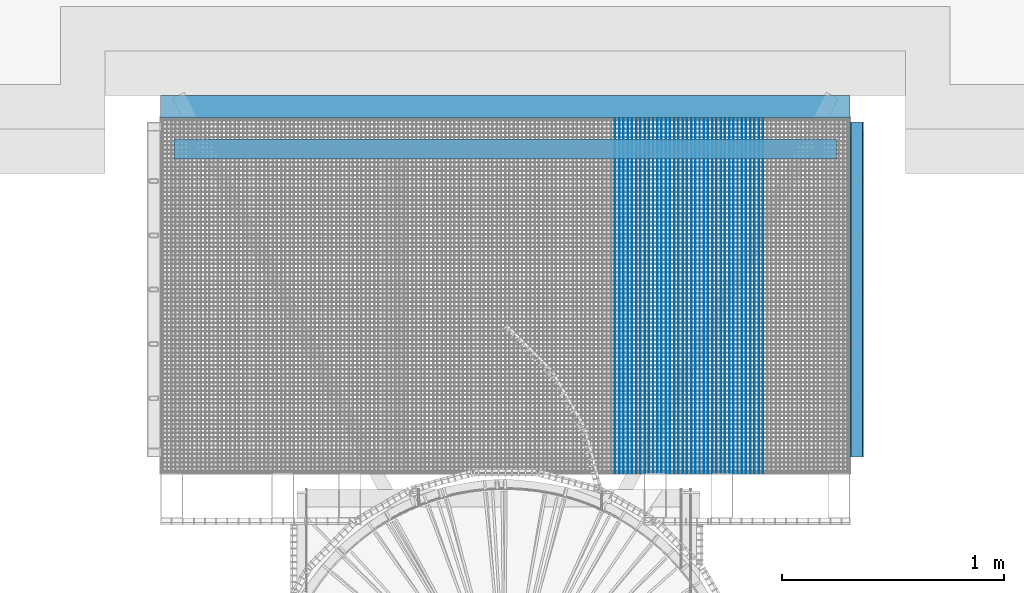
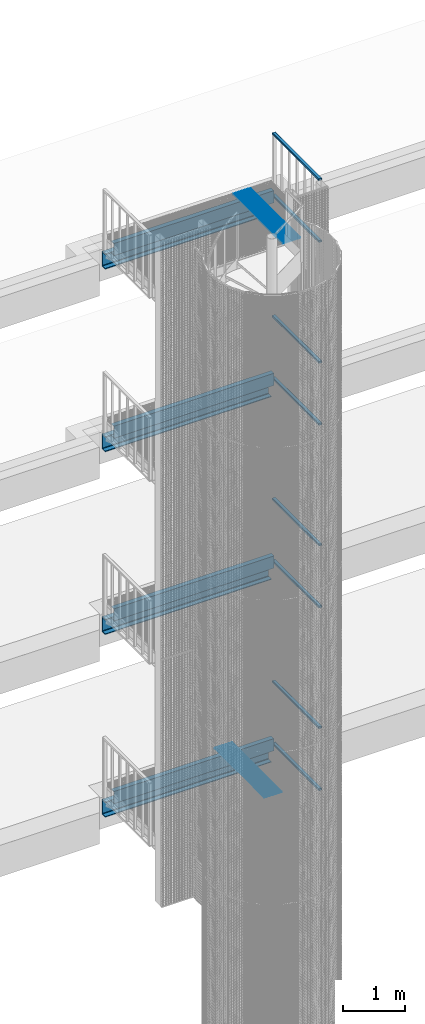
# One storey, part 99 of 1148: 52 beams, 18 elements without a shape of their own.
"""IFC2X3 building model written with IfcOpenShell, lengths in millimetres."""

from ifc_helpers import new_model, si_unit, frame, origin_with_axes, origin_2d_with_axis, place, context, subcontext, project, spatial, rectangle, hollow_rectangle, u_section, extrude, material, type_object, element, aggregate, save


model = new_model("IFC2X3")

# Units and contexts
model_context = context("Model", 3, precision=1e-05, world=origin_with_axes())
body_context = subcontext(model_context, "Body", "Model", "MODEL_VIEW")
ifc_project = project(units=[si_unit("LENGTHUNIT", "METRE", prefix="MILLI"), si_unit("AREAUNIT", "SQUARE_METRE"), si_unit("VOLUMEUNIT", "CUBIC_METRE"), si_unit("MASSUNIT", "GRAM", prefix="KILO"), si_unit("TIMEUNIT", "SECOND"), si_unit("PLANEANGLEUNIT", "RADIAN"), si_unit("SOLIDANGLEUNIT", "STERADIAN"), si_unit("THERMODYNAMICTEMPERATUREUNIT", "DEGREE_CELSIUS"), si_unit("LUMINOUSINTENSITYUNIT", "LUMEN")], contexts=[model_context])

# Site, building, storey
site_placement = place(None, origin_with_axes())
site = spatial("IfcSite", under=ifc_project, at=site_placement, Name="Undefined", CompositionType="ELEMENT")
building_placement = place(site_placement, origin_with_axes())
building = spatial("IfcBuilding", under=site, at=building_placement, Name="Undefined", CompositionType="ELEMENT")
storey_placement = place(building_placement, origin_with_axes())
storey = spatial("IfcBuildingStorey", under=building, at=storey_placement, Name="Undefined", CompositionType="ELEMENT", Elevation=0.0)

# Assembly, beams
assembly_1_placement = place(storey_placement, origin_with_axes())
assembly_1 = element("IfcElementAssembly", 1, at=assembly_1_placement, inside=storey, Name="BORDURE", AssemblyPlace="NOTDEFINED", PredefinedType="NOTDEFINED")
ifc_material_1 = material(Name="STEEL/S235JR")
beam_type_1 = type_object("IfcBeamType", Name="PL2*10", PredefinedType="NOTDEFINED")
beam_1_placement = place(assembly_1_placement, frame((22436.1154247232, 1102.00643381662, 17285.0), z_axis=(0.0, 0.0, 1.0), x_axis=(-4.50599999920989e-06, 0.999999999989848, 0.0)))
beam_1 = element("IfcBeam", 2, at=beam_1_placement, type_object=beam_type_1, material=ifc_material_1, Name="ENTRETOISE", context=body_context, shape_type="SweptSolid", body=[
    extrude(rectangle(XDim=2.0, YDim=10.0, at=origin_2d_with_axis()), frame((1596.0000000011, -1.35186458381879e-18, -7.27595761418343e-12), z_axis=(-1.0, 0.0, 0.0), x_axis=(0.0, -1.0, 0.0)), (0.0, 0.0, 1.0), 1596.0),
])
beam_2_placement = place(assembly_1_placement, frame((22455.1154247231, 1102.00652733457, 17285.0), z_axis=(0.0, 0.0, 1.0), x_axis=(-4.50599999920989e-06, 0.999999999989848, 0.0)))
beam_2 = element("IfcBeam", 3, at=beam_2_placement, type_object=beam_type_1, material=ifc_material_1, Name="ENTRETOISE", context=body_context, shape_type="SweptSolid", body=[
    extrude(rectangle(XDim=2.0, YDim=10.0, at=origin_2d_with_axis()), frame((1596.0000000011, -1.35186458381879e-18, -7.27595761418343e-12), z_axis=(-1.0, 0.0, 0.0), x_axis=(0.0, -1.0, 0.0)), (0.0, 0.0, 1.0), 1596.0),
])
beam_3_placement = place(assembly_1_placement, frame((22474.1154247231, 1102.00662085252, 17285.0), z_axis=(0.0, 0.0, 1.0), x_axis=(-4.50599999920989e-06, 0.999999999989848, 0.0)))
beam_3 = element("IfcBeam", 4, at=beam_3_placement, type_object=beam_type_1, material=ifc_material_1, Name="ENTRETOISE", context=body_context, shape_type="SweptSolid", body=[
    extrude(rectangle(XDim=2.0, YDim=10.0, at=origin_2d_with_axis()), frame((1596.0000000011, -1.35186458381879e-18, -7.27595761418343e-12), z_axis=(-1.0, 0.0, 0.0), x_axis=(0.0, -1.0, 0.0)), (0.0, 0.0, 1.0), 1596.0),
])
beam_4_placement = place(assembly_1_placement, frame((22493.115424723, 1102.00671437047, 17285.0), z_axis=(0.0, 0.0, 1.0), x_axis=(-4.50599999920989e-06, 0.999999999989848, 0.0)))
beam_4 = element("IfcBeam", 5, at=beam_4_placement, type_object=beam_type_1, material=ifc_material_1, Name="ENTRETOISE", context=body_context, shape_type="SweptSolid", body=[
    extrude(rectangle(XDim=2.0, YDim=10.0, at=origin_2d_with_axis()), frame((1596.0000000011, -1.35186458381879e-18, -7.27595761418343e-12), z_axis=(-1.0, 0.0, 0.0), x_axis=(0.0, -1.0, 0.0)), (0.0, 0.0, 1.0), 1596.0),
])
beam_5_placement = place(assembly_1_placement, frame((22512.1154247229, 1102.00680788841, 17285.0), z_axis=(0.0, 0.0, 1.0), x_axis=(-4.50599999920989e-06, 0.999999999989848, 0.0)))
beam_5 = element("IfcBeam", 6, at=beam_5_placement, type_object=beam_type_1, material=ifc_material_1, Name="ENTRETOISE", context=body_context, shape_type="SweptSolid", body=[
    extrude(rectangle(XDim=2.0, YDim=10.0, at=origin_2d_with_axis()), frame((1596.0000000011, -1.35186458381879e-18, -7.27595761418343e-12), z_axis=(-1.0, 0.0, 0.0), x_axis=(0.0, -1.0, 0.0)), (0.0, 0.0, 1.0), 1596.0),
])
beam_6_placement = place(assembly_1_placement, frame((22531.1154247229, 1102.00690140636, 17285.0), z_axis=(0.0, 0.0, 1.0), x_axis=(-4.50599999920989e-06, 0.999999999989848, 0.0)))
beam_6 = element("IfcBeam", 7, at=beam_6_placement, type_object=beam_type_1, material=ifc_material_1, Name="ENTRETOISE", context=body_context, shape_type="SweptSolid", body=[
    extrude(rectangle(XDim=2.0, YDim=10.0, at=origin_2d_with_axis()), frame((1596.0000000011, -1.35186458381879e-18, -7.27595761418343e-12), z_axis=(-1.0, 0.0, 0.0), x_axis=(0.0, -1.0, 0.0)), (0.0, 0.0, 1.0), 1596.0),
])
beam_7_placement = place(assembly_1_placement, frame((22550.1154247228, 1102.00699492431, 17285.0), z_axis=(0.0, 0.0, 1.0), x_axis=(-4.50599999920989e-06, 0.999999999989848, 0.0)))
beam_7 = element("IfcBeam", 8, at=beam_7_placement, type_object=beam_type_1, material=ifc_material_1, Name="ENTRETOISE", context=body_context, shape_type="SweptSolid", body=[
    extrude(rectangle(XDim=2.0, YDim=10.0, at=origin_2d_with_axis()), frame((1596.0000000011, -1.35186458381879e-18, -7.27595761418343e-12), z_axis=(-1.0, 0.0, 0.0), x_axis=(0.0, -1.0, 0.0)), (0.0, 0.0, 1.0), 1596.0),
])
beam_8_placement = place(assembly_1_placement, frame((22569.1154247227, 1102.00708844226, 17285.0), z_axis=(0.0, 0.0, 1.0), x_axis=(-4.50599999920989e-06, 0.999999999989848, 0.0)))
beam_8 = element("IfcBeam", 9, at=beam_8_placement, type_object=beam_type_1, material=ifc_material_1, Name="ENTRETOISE", context=body_context, shape_type="SweptSolid", body=[
    extrude(rectangle(XDim=2.0, YDim=10.0, at=origin_2d_with_axis()), frame((1596.0000000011, -1.35186458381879e-18, -7.27595761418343e-12), z_axis=(-1.0, 0.0, 0.0), x_axis=(0.0, -1.0, 0.0)), (0.0, 0.0, 1.0), 1596.0),
])
beam_9_placement = place(assembly_1_placement, frame((22588.1154247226, 1102.00718196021, 17285.0), z_axis=(0.0, 0.0, 1.0), x_axis=(-4.50599999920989e-06, 0.999999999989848, 0.0)))
beam_9 = element("IfcBeam", 10, at=beam_9_placement, type_object=beam_type_1, material=ifc_material_1, Name="ENTRETOISE", context=body_context, shape_type="SweptSolid", body=[
    extrude(rectangle(XDim=2.0, YDim=10.0, at=origin_2d_with_axis()), frame((1596.0000000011, -1.35186458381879e-18, -7.27595761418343e-12), z_axis=(-1.0, 0.0, 0.0), x_axis=(0.0, -1.0, 0.0)), (0.0, 0.0, 1.0), 1596.0),
])
beam_10_placement = place(assembly_1_placement, frame((22607.1154247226, 1102.00727547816, 17285.0), z_axis=(0.0, 0.0, 1.0), x_axis=(-4.50599999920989e-06, 0.999999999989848, 0.0)))
beam_10 = element("IfcBeam", 11, at=beam_10_placement, type_object=beam_type_1, material=ifc_material_1, Name="ENTRETOISE", context=body_context, shape_type="SweptSolid", body=[
    extrude(rectangle(XDim=2.0, YDim=10.0, at=origin_2d_with_axis()), frame((1596.0000000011, -1.35186458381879e-18, -7.27595761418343e-12), z_axis=(-1.0, 0.0, 0.0), x_axis=(0.0, -1.0, 0.0)), (0.0, 0.0, 1.0), 1596.0),
])
beam_11_placement = place(assembly_1_placement, frame((22626.1154247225, 1102.0073689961, 17285.0), z_axis=(0.0, 0.0, 1.0), x_axis=(-4.50599999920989e-06, 0.999999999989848, 0.0)))
beam_11 = element("IfcBeam", 12, at=beam_11_placement, type_object=beam_type_1, material=ifc_material_1, Name="ENTRETOISE", context=body_context, shape_type="SweptSolid", body=[
    extrude(rectangle(XDim=2.0, YDim=10.0, at=origin_2d_with_axis()), frame((1596.0000000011, -1.35186458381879e-18, -7.27595761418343e-12), z_axis=(-1.0, 0.0, 0.0), x_axis=(0.0, -1.0, 0.0)), (0.0, 0.0, 1.0), 1596.0),
])
beam_12_placement = place(assembly_1_placement, frame((22645.1154247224, 1102.00746251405, 17285.0), z_axis=(0.0, 0.0, 1.0), x_axis=(-4.50599999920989e-06, 0.999999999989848, 0.0)))
beam_12 = element("IfcBeam", 13, at=beam_12_placement, type_object=beam_type_1, material=ifc_material_1, Name="ENTRETOISE", context=body_context, shape_type="SweptSolid", body=[
    extrude(rectangle(XDim=2.0, YDim=10.0, at=origin_2d_with_axis()), frame((1596.0000000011, -1.35186458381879e-18, -7.27595761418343e-12), z_axis=(-1.0, 0.0, 0.0), x_axis=(0.0, -1.0, 0.0)), (0.0, 0.0, 1.0), 1596.0),
])
beam_13_placement = place(assembly_1_placement, frame((22664.1154247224, 1102.007556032, 17285.0), z_axis=(0.0, 0.0, 1.0), x_axis=(-4.50599999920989e-06, 0.999999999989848, 0.0)))
beam_13 = element("IfcBeam", 14, at=beam_13_placement, type_object=beam_type_1, material=ifc_material_1, Name="ENTRETOISE", context=body_context, shape_type="SweptSolid", body=[
    extrude(rectangle(XDim=2.0, YDim=10.0, at=origin_2d_with_axis()), frame((1596.0000000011, -1.35186458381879e-18, -7.27595761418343e-12), z_axis=(-1.0, 0.0, 0.0), x_axis=(0.0, -1.0, 0.0)), (0.0, 0.0, 1.0), 1596.0),
])
beam_14_placement = place(assembly_1_placement, frame((22683.1154247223, 1102.00764954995, 17285.0), z_axis=(0.0, 0.0, 1.0), x_axis=(-4.50599999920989e-06, 0.999999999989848, 0.0)))
beam_14 = element("IfcBeam", 15, at=beam_14_placement, type_object=beam_type_1, material=ifc_material_1, Name="ENTRETOISE", context=body_context, shape_type="SweptSolid", body=[
    extrude(rectangle(XDim=2.0, YDim=10.0, at=origin_2d_with_axis()), frame((1596.0000000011, -1.35186458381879e-18, -7.27595761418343e-12), z_axis=(-1.0, 0.0, 0.0), x_axis=(0.0, -1.0, 0.0)), (0.0, 0.0, 1.0), 1596.0),
])
beam_15_placement = place(assembly_1_placement, frame((22702.1154247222, 1102.0077430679, 17285.0), z_axis=(0.0, 0.0, 1.0), x_axis=(-4.50599999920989e-06, 0.999999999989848, 0.0)))
beam_15 = element("IfcBeam", 16, at=beam_15_placement, type_object=beam_type_1, material=ifc_material_1, Name="ENTRETOISE", context=body_context, shape_type="SweptSolid", body=[
    extrude(rectangle(XDim=2.0, YDim=10.0, at=origin_2d_with_axis()), frame((1596.0000000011, -1.35186458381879e-18, -7.27595761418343e-12), z_axis=(-1.0, 0.0, 0.0), x_axis=(0.0, -1.0, 0.0)), (0.0, 0.0, 1.0), 1596.0),
])
beam_16_placement = place(assembly_1_placement, frame((22721.1154247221, 1102.00783658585, 17285.0), z_axis=(0.0, 0.0, 1.0), x_axis=(-4.50599999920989e-06, 0.999999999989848, 0.0)))
beam_16 = element("IfcBeam", 17, at=beam_16_placement, type_object=beam_type_1, material=ifc_material_1, Name="ENTRETOISE", context=body_context, shape_type="SweptSolid", body=[
    extrude(rectangle(XDim=2.0, YDim=10.0, at=origin_2d_with_axis()), frame((1596.0000000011, -1.35186458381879e-18, -7.27595761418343e-12), z_axis=(-1.0, 0.0, 0.0), x_axis=(0.0, -1.0, 0.0)), (0.0, 0.0, 1.0), 1596.0),
])
beam_17_placement = place(assembly_1_placement, frame((22740.1154247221, 1102.0079301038, 17285.0), z_axis=(0.0, 0.0, 1.0), x_axis=(-4.50599999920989e-06, 0.999999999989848, 0.0)))
beam_17 = element("IfcBeam", 18, at=beam_17_placement, type_object=beam_type_1, material=ifc_material_1, Name="ENTRETOISE", context=body_context, shape_type="SweptSolid", body=[
    extrude(rectangle(XDim=2.0, YDim=10.0, at=origin_2d_with_axis()), frame((1596.0000000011, -1.35186458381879e-18, -7.27595761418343e-12), z_axis=(-1.0, 0.0, 0.0), x_axis=(0.0, -1.0, 0.0)), (0.0, 0.0, 1.0), 1596.0),
])
beam_18_placement = place(assembly_1_placement, frame((22759.115424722, 1102.00802362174, 17285.0), z_axis=(0.0, 0.0, 1.0), x_axis=(-4.50599999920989e-06, 0.999999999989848, 0.0)))
beam_18 = element("IfcBeam", 19, at=beam_18_placement, type_object=beam_type_1, material=ifc_material_1, Name="ENTRETOISE", context=body_context, shape_type="SweptSolid", body=[
    extrude(rectangle(XDim=2.0, YDim=10.0, at=origin_2d_with_axis()), frame((1596.0000000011, -1.35186458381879e-18, -7.27595761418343e-12), z_axis=(-1.0, 0.0, 0.0), x_axis=(0.0, -1.0, 0.0)), (0.0, 0.0, 1.0), 1596.0),
])
aggregate(assembly_1, [beam_1, beam_2, beam_3, beam_4, beam_5, beam_6, beam_7, beam_8, beam_9, beam_10, beam_11, beam_12, beam_13, beam_14, beam_15, beam_16, beam_17, beam_18])

assembly_2_placement = place(storey_placement, origin_with_axes())
assembly_2 = element("IfcElementAssembly", 20, at=assembly_2_placement, inside=storey, Name="BORDURE", AssemblyPlace="NOTDEFINED", PredefinedType="NOTDEFINED")
beam_19_placement = place(assembly_2_placement, frame((22094.1154247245, 1102.00475049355, 6485.0), z_axis=(0.0, 0.0, 1.0), x_axis=(-4.50599999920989e-06, 0.999999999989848, 0.0)))
beam_19 = element("IfcBeam", 21, at=beam_19_placement, type_object=beam_type_1, material=ifc_material_1, Name="ENTRETOISE", context=body_context, shape_type="SweptSolid", body=[
    extrude(rectangle(XDim=2.0, YDim=10.0, at=origin_2d_with_axis()), frame((1596.0000000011, -1.35186458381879e-18, -7.27595761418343e-12), z_axis=(-1.0, 0.0, 0.0), x_axis=(0.0, -1.0, 0.0)), (0.0, 0.0, 1.0), 1596.0),
])
beam_20_placement = place(assembly_2_placement, frame((22113.1154247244, 1102.0048440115, 6485.0), z_axis=(0.0, 0.0, 1.0), x_axis=(-4.50599999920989e-06, 0.999999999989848, 0.0)))
beam_20 = element("IfcBeam", 22, at=beam_20_placement, type_object=beam_type_1, material=ifc_material_1, Name="ENTRETOISE", context=body_context, shape_type="SweptSolid", body=[
    extrude(rectangle(XDim=2.0, YDim=10.0, at=origin_2d_with_axis()), frame((1596.0000000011, -1.35186458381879e-18, -7.27595761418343e-12), z_axis=(-1.0, 0.0, 0.0), x_axis=(0.0, -1.0, 0.0)), (0.0, 0.0, 1.0), 1596.0),
])
beam_21_placement = place(assembly_2_placement, frame((22132.1154247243, 1102.00493752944, 6485.0), z_axis=(0.0, 0.0, 1.0), x_axis=(-4.50599999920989e-06, 0.999999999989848, 0.0)))
beam_21 = element("IfcBeam", 23, at=beam_21_placement, type_object=beam_type_1, material=ifc_material_1, Name="ENTRETOISE", context=body_context, shape_type="SweptSolid", body=[
    extrude(rectangle(XDim=2.0, YDim=10.0, at=origin_2d_with_axis()), frame((1596.0000000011, -1.35186458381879e-18, -7.27595761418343e-12), z_axis=(-1.0, 0.0, 0.0), x_axis=(0.0, -1.0, 0.0)), (0.0, 0.0, 1.0), 1596.0),
])
beam_22_placement = place(assembly_2_placement, frame((22151.1154247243, 1102.00503104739, 6485.0), z_axis=(0.0, 0.0, 1.0), x_axis=(-4.50599999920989e-06, 0.999999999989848, 0.0)))
beam_22 = element("IfcBeam", 24, at=beam_22_placement, type_object=beam_type_1, material=ifc_material_1, Name="ENTRETOISE", context=body_context, shape_type="SweptSolid", body=[
    extrude(rectangle(XDim=2.0, YDim=10.0, at=origin_2d_with_axis()), frame((1596.0000000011, -1.35186458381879e-18, -7.27595761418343e-12), z_axis=(-1.0, 0.0, 0.0), x_axis=(0.0, -1.0, 0.0)), (0.0, 0.0, 1.0), 1596.0),
])
beam_23_placement = place(assembly_2_placement, frame((22170.1154247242, 1102.00512456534, 6485.0), z_axis=(0.0, 0.0, 1.0), x_axis=(-4.50599999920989e-06, 0.999999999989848, 0.0)))
beam_23 = element("IfcBeam", 25, at=beam_23_placement, type_object=beam_type_1, material=ifc_material_1, Name="ENTRETOISE", context=body_context, shape_type="SweptSolid", body=[
    extrude(rectangle(XDim=2.0, YDim=10.0, at=origin_2d_with_axis()), frame((1596.0000000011, -1.35186458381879e-18, -7.27595761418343e-12), z_axis=(-1.0, 0.0, 0.0), x_axis=(0.0, -1.0, 0.0)), (0.0, 0.0, 1.0), 1596.0),
])
beam_24_placement = place(assembly_2_placement, frame((22189.1154247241, 1102.00521808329, 6485.0), z_axis=(0.0, 0.0, 1.0), x_axis=(-4.50599999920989e-06, 0.999999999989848, 0.0)))
beam_24 = element("IfcBeam", 26, at=beam_24_placement, type_object=beam_type_1, material=ifc_material_1, Name="ENTRETOISE", context=body_context, shape_type="SweptSolid", body=[
    extrude(rectangle(XDim=2.0, YDim=10.0, at=origin_2d_with_axis()), frame((1596.0000000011, -1.35186458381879e-18, -7.27595761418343e-12), z_axis=(-1.0, 0.0, 0.0), x_axis=(0.0, -1.0, 0.0)), (0.0, 0.0, 1.0), 1596.0),
])
beam_25_placement = place(assembly_2_placement, frame((22208.1154247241, 1102.00531160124, 6485.0), z_axis=(0.0, 0.0, 1.0), x_axis=(-4.50599999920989e-06, 0.999999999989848, 0.0)))
beam_25 = element("IfcBeam", 27, at=beam_25_placement, type_object=beam_type_1, material=ifc_material_1, Name="ENTRETOISE", context=body_context, shape_type="SweptSolid", body=[
    extrude(rectangle(XDim=2.0, YDim=10.0, at=origin_2d_with_axis()), frame((1596.0000000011, -1.35186458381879e-18, -7.27595761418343e-12), z_axis=(-1.0, 0.0, 0.0), x_axis=(0.0, -1.0, 0.0)), (0.0, 0.0, 1.0), 1596.0),
])
beam_26_placement = place(assembly_2_placement, frame((22227.115424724, 1102.00540511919, 6485.0), z_axis=(0.0, 0.0, 1.0), x_axis=(-4.50599999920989e-06, 0.999999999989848, 0.0)))
beam_26 = element("IfcBeam", 28, at=beam_26_placement, type_object=beam_type_1, material=ifc_material_1, Name="ENTRETOISE", context=body_context, shape_type="SweptSolid", body=[
    extrude(rectangle(XDim=2.0, YDim=10.0, at=origin_2d_with_axis()), frame((1596.0000000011, -1.35186458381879e-18, -7.27595761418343e-12), z_axis=(-1.0, 0.0, 0.0), x_axis=(0.0, -1.0, 0.0)), (0.0, 0.0, 1.0), 1596.0),
])
beam_27_placement = place(assembly_2_placement, frame((22246.1154247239, 1102.00549863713, 6485.0), z_axis=(0.0, 0.0, 1.0), x_axis=(-4.50599999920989e-06, 0.999999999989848, 0.0)))
beam_27 = element("IfcBeam", 29, at=beam_27_placement, type_object=beam_type_1, material=ifc_material_1, Name="ENTRETOISE", context=body_context, shape_type="SweptSolid", body=[
    extrude(rectangle(XDim=2.0, YDim=10.0, at=origin_2d_with_axis()), frame((1596.0000000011, -1.35186458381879e-18, -7.27595761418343e-12), z_axis=(-1.0, 0.0, 0.0), x_axis=(0.0, -1.0, 0.0)), (0.0, 0.0, 1.0), 1596.0),
])
beam_28_placement = place(assembly_2_placement, frame((22265.1154247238, 1102.00559215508, 6485.0), z_axis=(0.0, 0.0, 1.0), x_axis=(-4.50599999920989e-06, 0.999999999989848, 0.0)))
beam_28 = element("IfcBeam", 30, at=beam_28_placement, type_object=beam_type_1, material=ifc_material_1, Name="ENTRETOISE", context=body_context, shape_type="SweptSolid", body=[
    extrude(rectangle(XDim=2.0, YDim=10.0, at=origin_2d_with_axis()), frame((1596.0000000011, -1.35186458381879e-18, -7.27595761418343e-12), z_axis=(-1.0, 0.0, 0.0), x_axis=(0.0, -1.0, 0.0)), (0.0, 0.0, 1.0), 1596.0),
])
beam_29_placement = place(assembly_2_placement, frame((22284.1154247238, 1102.00568567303, 6485.0), z_axis=(0.0, 0.0, 1.0), x_axis=(-4.50599999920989e-06, 0.999999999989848, 0.0)))
beam_29 = element("IfcBeam", 31, at=beam_29_placement, type_object=beam_type_1, material=ifc_material_1, Name="ENTRETOISE", context=body_context, shape_type="SweptSolid", body=[
    extrude(rectangle(XDim=2.0, YDim=10.0, at=origin_2d_with_axis()), frame((1596.0000000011, -1.35186458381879e-18, -7.27595761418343e-12), z_axis=(-1.0, 0.0, 0.0), x_axis=(0.0, -1.0, 0.0)), (0.0, 0.0, 1.0), 1596.0),
])
beam_30_placement = place(assembly_2_placement, frame((22303.1154247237, 1102.00577919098, 6485.0), z_axis=(0.0, 0.0, 1.0), x_axis=(-4.50599999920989e-06, 0.999999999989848, 0.0)))
beam_30 = element("IfcBeam", 32, at=beam_30_placement, type_object=beam_type_1, material=ifc_material_1, Name="ENTRETOISE", context=body_context, shape_type="SweptSolid", body=[
    extrude(rectangle(XDim=2.0, YDim=10.0, at=origin_2d_with_axis()), frame((1596.0000000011, -1.35186458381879e-18, -7.27595761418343e-12), z_axis=(-1.0, 0.0, 0.0), x_axis=(0.0, -1.0, 0.0)), (0.0, 0.0, 1.0), 1596.0),
])
beam_31_placement = place(assembly_2_placement, frame((22322.1154247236, 1102.00587270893, 6485.0), z_axis=(0.0, 0.0, 1.0), x_axis=(-4.50599999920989e-06, 0.999999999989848, 0.0)))
beam_31 = element("IfcBeam", 33, at=beam_31_placement, type_object=beam_type_1, material=ifc_material_1, Name="ENTRETOISE", context=body_context, shape_type="SweptSolid", body=[
    extrude(rectangle(XDim=2.0, YDim=10.0, at=origin_2d_with_axis()), frame((1596.0000000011, -1.35186458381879e-18, -7.27595761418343e-12), z_axis=(-1.0, 0.0, 0.0), x_axis=(0.0, -1.0, 0.0)), (0.0, 0.0, 1.0), 1596.0),
])
beam_32_placement = place(assembly_2_placement, frame((22341.1154247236, 1102.00596622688, 6485.0), z_axis=(0.0, 0.0, 1.0), x_axis=(-4.50599999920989e-06, 0.999999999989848, 0.0)))
beam_32 = element("IfcBeam", 34, at=beam_32_placement, type_object=beam_type_1, material=ifc_material_1, Name="ENTRETOISE", context=body_context, shape_type="SweptSolid", body=[
    extrude(rectangle(XDim=2.0, YDim=10.0, at=origin_2d_with_axis()), frame((1596.0000000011, -1.35186458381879e-18, -7.27595761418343e-12), z_axis=(-1.0, 0.0, 0.0), x_axis=(0.0, -1.0, 0.0)), (0.0, 0.0, 1.0), 1596.0),
])
beam_33_placement = place(assembly_2_placement, frame((22360.1154247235, 1102.00605974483, 6485.0), z_axis=(0.0, 0.0, 1.0), x_axis=(-4.50599999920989e-06, 0.999999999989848, 0.0)))
beam_33 = element("IfcBeam", 35, at=beam_33_placement, type_object=beam_type_1, material=ifc_material_1, Name="ENTRETOISE", context=body_context, shape_type="SweptSolid", body=[
    extrude(rectangle(XDim=2.0, YDim=10.0, at=origin_2d_with_axis()), frame((1596.0000000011, -1.35186458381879e-18, -7.27595761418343e-12), z_axis=(-1.0, 0.0, 0.0), x_axis=(0.0, -1.0, 0.0)), (0.0, 0.0, 1.0), 1596.0),
])
beam_34_placement = place(assembly_2_placement, frame((22379.1154247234, 1102.00615326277, 6485.0), z_axis=(0.0, 0.0, 1.0), x_axis=(-4.50599999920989e-06, 0.999999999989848, 0.0)))
beam_34 = element("IfcBeam", 36, at=beam_34_placement, type_object=beam_type_1, material=ifc_material_1, Name="ENTRETOISE", context=body_context, shape_type="SweptSolid", body=[
    extrude(rectangle(XDim=2.0, YDim=10.0, at=origin_2d_with_axis()), frame((1596.0000000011, -1.35186458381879e-18, -7.27595761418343e-12), z_axis=(-1.0, 0.0, 0.0), x_axis=(0.0, -1.0, 0.0)), (0.0, 0.0, 1.0), 1596.0),
])
beam_35_placement = place(assembly_2_placement, frame((22398.1154247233, 1102.00624678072, 6485.0), z_axis=(0.0, 0.0, 1.0), x_axis=(-4.50599999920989e-06, 0.999999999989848, 0.0)))
beam_35 = element("IfcBeam", 37, at=beam_35_placement, type_object=beam_type_1, material=ifc_material_1, Name="ENTRETOISE", context=body_context, shape_type="SweptSolid", body=[
    extrude(rectangle(XDim=2.0, YDim=10.0, at=origin_2d_with_axis()), frame((1596.0000000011, -1.35186458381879e-18, -7.27595761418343e-12), z_axis=(-1.0, 0.0, 0.0), x_axis=(0.0, -1.0, 0.0)), (0.0, 0.0, 1.0), 1596.0),
])
beam_36_placement = place(assembly_2_placement, frame((22417.1154247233, 1102.00634029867, 6485.0), z_axis=(0.0, 0.0, 1.0), x_axis=(-4.50599999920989e-06, 0.999999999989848, 0.0)))
beam_36 = element("IfcBeam", 38, at=beam_36_placement, type_object=beam_type_1, material=ifc_material_1, Name="ENTRETOISE", context=body_context, shape_type="SweptSolid", body=[
    extrude(rectangle(XDim=2.0, YDim=10.0, at=origin_2d_with_axis()), frame((1596.0000000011, -1.35186458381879e-18, -7.27595761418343e-12), z_axis=(-1.0, 0.0, 0.0), x_axis=(0.0, -1.0, 0.0)), (0.0, 0.0, 1.0), 1596.0),
])
aggregate(assembly_2, [beam_19, beam_20, beam_21, beam_22, beam_23, beam_24, beam_25, beam_26, beam_27, beam_28, beam_29, beam_30, beam_31, beam_32, beam_33, beam_34, beam_35, beam_36])

# Assembly, beam
assembly_3_placement = place(storey_placement, origin_with_axes())
assembly_3 = element("IfcElementAssembly", 39, at=assembly_3_placement, inside=storey, Name="RAILING", AssemblyPlace="NOTDEFINED", PredefinedType="NOTDEFINED")
beam_type_2 = type_object("IfcBeamType", Name="TUBE-R-60*40*3", PredefinedType="NOTDEFINED")
beam_37_placement = place(assembly_3_placement, frame((23180.0704345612, 1175.01007484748, 17020.0), z_axis=(-0.999999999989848, -4.50599999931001e-06, 0.0), x_axis=(-4.50599999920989e-06, 0.999999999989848, 0.0)))
beam_37 = element("IfcBeam", 40, at=beam_37_placement, type_object=beam_type_2, material=ifc_material_1, Name="RAILING", context=body_context, shape_type="SweptSolid", body=[
    extrude(hollow_rectangle(XDim=40.0, YDim=60.0, WallThickness=3.0, InnerFilletRadius=3.0, OuterFilletRadius=6.0, at=origin_2d_with_axis()), frame((1504.99832798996, 3.63797880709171e-12, -1.27478316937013e-18), z_axis=(-1.0, 0.0, 0.0), x_axis=(0.0, -1.0, 0.0)), (0.0, 0.0, 1.0), 1505.0),
])
aggregate(assembly_3, [beam_37])

assembly_4_placement = place(storey_placement, origin_with_axes())
assembly_4 = element("IfcElementAssembly", 41, at=assembly_4_placement, inside=storey, Name="RAILING", AssemblyPlace="NOTDEFINED", PredefinedType="NOTDEFINED")
beam_38_placement = place(assembly_4_placement, frame((23180.0704345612, 1175.01007484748, 18240.0), z_axis=(-0.999999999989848, -4.50599999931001e-06, 0.0), x_axis=(-4.50599999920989e-06, 0.999999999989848, 0.0)))
beam_38 = element("IfcBeam", 42, at=beam_38_placement, type_object=beam_type_2, material=ifc_material_1, Name="RAILING", context=body_context, shape_type="SweptSolid", body=[
    extrude(hollow_rectangle(XDim=40.0, YDim=60.0, WallThickness=3.0, InnerFilletRadius=3.0, OuterFilletRadius=6.0, at=origin_2d_with_axis()), frame((1504.99832798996, 3.63797880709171e-12, -1.27478316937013e-18), z_axis=(-1.0, 0.0, 0.0), x_axis=(0.0, -1.0, 0.0)), (0.0, 0.0, 1.0), 1505.0),
])
aggregate(assembly_4, [beam_38])

assembly_5_placement = place(storey_placement, origin_with_axes())
assembly_5 = element("IfcElementAssembly", 43, at=assembly_5_placement, inside=storey, Name="RAILING", AssemblyPlace="NOTDEFINED", PredefinedType="NOTDEFINED")
beam_39_placement = place(assembly_5_placement, frame((23180.0704345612, 1175.01007484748, 13420.0), z_axis=(-0.999999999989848, -4.50599999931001e-06, 0.0), x_axis=(-4.50599999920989e-06, 0.999999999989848, 0.0)))
beam_39 = element("IfcBeam", 44, at=beam_39_placement, type_object=beam_type_2, material=ifc_material_1, Name="RAILING", context=body_context, shape_type="SweptSolid", body=[
    extrude(hollow_rectangle(XDim=40.0, YDim=60.0, WallThickness=3.0, InnerFilletRadius=3.0, OuterFilletRadius=6.0, at=origin_2d_with_axis()), frame((1504.99832798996, 3.63797880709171e-12, -1.27478316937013e-18), z_axis=(-1.0, 0.0, 0.0), x_axis=(0.0, -1.0, 0.0)), (0.0, 0.0, 1.0), 1505.0),
])
aggregate(assembly_5, [beam_39])

assembly_6_placement = place(storey_placement, origin_with_axes())
assembly_6 = element("IfcElementAssembly", 45, at=assembly_6_placement, inside=storey, Name="RAILING", AssemblyPlace="NOTDEFINED", PredefinedType="NOTDEFINED")
beam_40_placement = place(assembly_6_placement, frame((23180.0704345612, 1175.01007484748, 14640.0), z_axis=(-0.999999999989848, -4.50599999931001e-06, 0.0), x_axis=(-4.50599999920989e-06, 0.999999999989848, 0.0)))
beam_40 = element("IfcBeam", 46, at=beam_40_placement, type_object=beam_type_2, material=ifc_material_1, Name="RAILING", context=body_context, shape_type="SweptSolid", body=[
    extrude(hollow_rectangle(XDim=40.0, YDim=60.0, WallThickness=3.0, InnerFilletRadius=3.0, OuterFilletRadius=6.0, at=origin_2d_with_axis()), frame((1504.99832798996, 3.63797880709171e-12, -1.27478316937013e-18), z_axis=(-1.0, 0.0, 0.0), x_axis=(0.0, -1.0, 0.0)), (0.0, 0.0, 1.0), 1505.0),
])
aggregate(assembly_6, [beam_40])

assembly_7_placement = place(storey_placement, origin_with_axes())
assembly_7 = element("IfcElementAssembly", 47, at=assembly_7_placement, inside=storey, Name="RAILING", AssemblyPlace="NOTDEFINED", PredefinedType="NOTDEFINED")
beam_41_placement = place(assembly_7_placement, frame((23180.0704345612, 1175.01007484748, 9820.0), z_axis=(-0.999999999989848, -4.50599999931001e-06, 0.0), x_axis=(-4.50599999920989e-06, 0.999999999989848, 0.0)))
beam_41 = element("IfcBeam", 48, at=beam_41_placement, type_object=beam_type_2, material=ifc_material_1, Name="RAILING", context=body_context, shape_type="SweptSolid", body=[
    extrude(hollow_rectangle(XDim=40.0, YDim=60.0, WallThickness=3.0, InnerFilletRadius=3.0, OuterFilletRadius=6.0, at=origin_2d_with_axis()), frame((1504.99832798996, 3.63797880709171e-12, -1.27478316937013e-18), z_axis=(-1.0, 0.0, 0.0), x_axis=(0.0, -1.0, 0.0)), (0.0, 0.0, 1.0), 1505.0),
])
aggregate(assembly_7, [beam_41])

assembly_8_placement = place(storey_placement, origin_with_axes())
assembly_8 = element("IfcElementAssembly", 49, at=assembly_8_placement, inside=storey, Name="RAILING", AssemblyPlace="NOTDEFINED", PredefinedType="NOTDEFINED")
beam_42_placement = place(assembly_8_placement, frame((23180.0704345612, 1175.01007484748, 11040.0), z_axis=(-0.999999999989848, -4.50599999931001e-06, 0.0), x_axis=(-4.50599999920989e-06, 0.999999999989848, 0.0)))
beam_42 = element("IfcBeam", 50, at=beam_42_placement, type_object=beam_type_2, material=ifc_material_1, Name="RAILING", context=body_context, shape_type="SweptSolid", body=[
    extrude(hollow_rectangle(XDim=40.0, YDim=60.0, WallThickness=3.0, InnerFilletRadius=3.0, OuterFilletRadius=6.0, at=origin_2d_with_axis()), frame((1504.99832798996, 3.63797880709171e-12, -1.27478316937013e-18), z_axis=(-1.0, 0.0, 0.0), x_axis=(0.0, -1.0, 0.0)), (0.0, 0.0, 1.0), 1505.0),
])
aggregate(assembly_8, [beam_42])

assembly_9_placement = place(storey_placement, origin_with_axes())
assembly_9 = element("IfcElementAssembly", 51, at=assembly_9_placement, inside=storey, Name="RAILING", AssemblyPlace="NOTDEFINED", PredefinedType="NOTDEFINED")
beam_43_placement = place(assembly_9_placement, frame((23180.0704345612, 1175.01007484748, 6220.0), z_axis=(-0.999999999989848, -4.50599999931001e-06, 0.0), x_axis=(-4.50599999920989e-06, 0.999999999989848, 0.0)))
beam_43 = element("IfcBeam", 52, at=beam_43_placement, type_object=beam_type_2, material=ifc_material_1, Name="RAILING", context=body_context, shape_type="SweptSolid", body=[
    extrude(hollow_rectangle(XDim=40.0, YDim=60.0, WallThickness=3.0, InnerFilletRadius=3.0, OuterFilletRadius=6.0, at=origin_2d_with_axis()), frame((1504.99832798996, 3.63797880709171e-12, -1.27478316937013e-18), z_axis=(-1.0, 0.0, 0.0), x_axis=(0.0, -1.0, 0.0)), (0.0, 0.0, 1.0), 1505.0),
])
aggregate(assembly_9, [beam_43])

assembly_10_placement = place(storey_placement, origin_with_axes())
assembly_10 = element("IfcElementAssembly", 53, at=assembly_10_placement, inside=storey, Name="RAILING", AssemblyPlace="NOTDEFINED", PredefinedType="NOTDEFINED")
beam_44_placement = place(assembly_10_placement, frame((23180.0704345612, 1175.01007484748, 7440.0), z_axis=(-0.999999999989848, -4.50599999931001e-06, 0.0), x_axis=(-4.50599999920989e-06, 0.999999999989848, 0.0)))
beam_44 = element("IfcBeam", 54, at=beam_44_placement, type_object=beam_type_2, material=ifc_material_1, Name="RAILING", context=body_context, shape_type="SweptSolid", body=[
    extrude(hollow_rectangle(XDim=40.0, YDim=60.0, WallThickness=3.0, InnerFilletRadius=3.0, OuterFilletRadius=6.0, at=origin_2d_with_axis()), frame((1504.99832798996, 3.63797880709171e-12, -1.27478316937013e-18), z_axis=(-1.0, 0.0, 0.0), x_axis=(0.0, -1.0, 0.0)), (0.0, 0.0, 1.0), 1505.0),
])
aggregate(assembly_10, [beam_44])

assembly_11_placement = place(storey_placement, origin_with_axes())
assembly_11 = element("IfcElementAssembly", 55, at=assembly_11_placement, inside=storey, Name="TRAVERSE", AssemblyPlace="NOTDEFINED", PredefinedType="NOTDEFINED")
ifc_material_2 = material(Name="STEEL/S275JR")
beam_type_3 = type_object("IfcBeamType", Name="UPE300", PredefinedType="NOTDEFINED")
beam_45_placement = place(assembly_11_placement, frame((20050.1127617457, 2749.84818067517, 16790.0), z_axis=(0.0, 0.0, 1.0), x_axis=(1.0, 0.0, 0.0)))
beam_45 = element("IfcBeam", 56, at=beam_45_placement, type_object=beam_type_3, material=ifc_material_2, Name="TRAVERSE", context=body_context, shape_type="SweptSolid", body=[
    extrude(u_section(Depth=300.0, FlangeWidth=100.0, WebThickness=9.5, FlangeThickness=15.0, FilletRadius=15.0, at=origin_2d_with_axis()), frame((3099.99084151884, -4.54747022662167e-13, 3.63797880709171e-12), z_axis=(-1.0, 0.0, 0.0), x_axis=(0.0, -1.0, 0.0)), (0.0, 0.0, 1.0), 3099.99),
])
aggregate(assembly_11, [beam_45])

assembly_12_placement = place(storey_placement, origin_with_axes())
assembly_12 = element("IfcElementAssembly", 57, at=assembly_12_placement, inside=storey, Name="TRAVERSE", AssemblyPlace="NOTDEFINED", PredefinedType="NOTDEFINED")
beam_46_placement = place(assembly_12_placement, frame((20050.1127617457, 2749.92818067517, 13190.0), z_axis=(0.0, 0.0, 1.0), x_axis=(1.0, 0.0, 0.0)))
beam_46 = element("IfcBeam", 58, at=beam_46_placement, type_object=beam_type_3, material=ifc_material_2, Name="TRAVERSE", context=body_context, shape_type="SweptSolid", body=[
    extrude(u_section(Depth=300.0, FlangeWidth=100.0, WebThickness=9.5, FlangeThickness=15.0, FilletRadius=15.0, at=origin_2d_with_axis()), frame((3099.99084151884, -4.54747022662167e-13, 3.63797880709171e-12), z_axis=(-1.0, 0.0, 0.0), x_axis=(0.0, -1.0, 0.0)), (0.0, 0.0, 1.0), 3099.99),
])
aggregate(assembly_12, [beam_46])

assembly_13_placement = place(storey_placement, origin_with_axes())
assembly_13 = element("IfcElementAssembly", 59, at=assembly_13_placement, inside=storey, Name="TRAVERSE", AssemblyPlace="NOTDEFINED", PredefinedType="NOTDEFINED")
beam_47_placement = place(assembly_13_placement, frame((20050.1127617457, 2750.00818067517, 9590.0), z_axis=(0.0, 0.0, 1.0), x_axis=(1.0, 0.0, 0.0)))
beam_47 = element("IfcBeam", 60, at=beam_47_placement, type_object=beam_type_3, material=ifc_material_2, Name="TRAVERSE", context=body_context, shape_type="SweptSolid", body=[
    extrude(u_section(Depth=300.0, FlangeWidth=100.0, WebThickness=9.5, FlangeThickness=15.0, FilletRadius=15.0, at=origin_2d_with_axis()), frame((3099.99084151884, -4.54747022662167e-13, 3.63797880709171e-12), z_axis=(-1.0, 0.0, 0.0), x_axis=(0.0, -1.0, 0.0)), (0.0, 0.0, 1.0), 3099.99),
])
aggregate(assembly_13, [beam_47])

assembly_14_placement = place(storey_placement, origin_with_axes())
assembly_14 = element("IfcElementAssembly", 61, at=assembly_14_placement, inside=storey, Name="TRAVERSE", AssemblyPlace="NOTDEFINED", PredefinedType="NOTDEFINED")
beam_48_placement = place(assembly_14_placement, frame((20050.1127617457, 2750.08818067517, 5990.0), z_axis=(0.0, 0.0, 1.0), x_axis=(1.0, 0.0, 0.0)))
beam_48 = element("IfcBeam", 62, at=beam_48_placement, type_object=beam_type_3, material=ifc_material_2, Name="TRAVERSE", context=body_context, shape_type="SweptSolid", body=[
    extrude(u_section(Depth=300.0, FlangeWidth=100.0, WebThickness=9.5, FlangeThickness=15.0, FilletRadius=15.0, at=origin_2d_with_axis()), frame((3099.99084151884, -4.54747022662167e-13, 3.63797880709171e-12), z_axis=(-1.0, 0.0, 0.0), x_axis=(0.0, -1.0, 0.0)), (0.0, 0.0, 1.0), 3099.99),
])
aggregate(assembly_14, [beam_48])

assembly_15_placement = place(storey_placement, origin_with_axes())
assembly_15 = element("IfcElementAssembly", 63, at=assembly_15_placement, inside=storey, AssemblyPlace="NOTDEFINED", PredefinedType="NOTDEFINED")
beam_type_4 = type_object("IfcBeamType", Name="UPE240", PredefinedType="NOTDEFINED")
beam_49_placement = place(assembly_15_placement, frame((20110.1198202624, 2559.99468994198, 17120.0), z_axis=(0.0, 0.0, -1.0), x_axis=(0.999999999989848, 4.50600000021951e-06, 0.0)))
beam_49 = element("IfcBeam", 64, at=beam_49_placement, type_object=beam_type_4, material=ifc_material_1, Name="EXISTANTS", context=body_context, shape_type="SweptSolid", body=[
    extrude(u_section(Depth=240.0, FlangeWidth=90.0, WebThickness=7.0, FlangeThickness=12.5, FilletRadius=15.0, at=origin_2d_with_axis()), frame((2979.99084475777, 0.0, 3.63797880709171e-12), z_axis=(-1.0, 0.0, 0.0), x_axis=(0.0, -1.0, 0.0)), (0.0, 0.0, 1.0), 2979.99),
])
aggregate(assembly_15, [beam_49])

assembly_16_placement = place(storey_placement, origin_with_axes())
assembly_16 = element("IfcElementAssembly", 65, at=assembly_16_placement, inside=storey, AssemblyPlace="NOTDEFINED", PredefinedType="NOTDEFINED")
beam_50_placement = place(assembly_16_placement, frame((20110.1198202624, 2559.99468994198, 13520.0), z_axis=(0.0, 0.0, -1.0), x_axis=(0.999999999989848, 4.50600000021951e-06, 0.0)))
beam_50 = element("IfcBeam", 66, at=beam_50_placement, type_object=beam_type_4, material=ifc_material_1, Name="EXISTANTS", context=body_context, shape_type="SweptSolid", body=[
    extrude(u_section(Depth=240.0, FlangeWidth=90.0, WebThickness=7.0, FlangeThickness=12.5, FilletRadius=15.0, at=origin_2d_with_axis()), frame((2979.99084475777, 0.0, 3.63797880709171e-12), z_axis=(-1.0, 0.0, 0.0), x_axis=(0.0, -1.0, 0.0)), (0.0, 0.0, 1.0), 2979.99),
])
aggregate(assembly_16, [beam_50])

assembly_17_placement = place(storey_placement, origin_with_axes())
assembly_17 = element("IfcElementAssembly", 67, at=assembly_17_placement, inside=storey, AssemblyPlace="NOTDEFINED", PredefinedType="NOTDEFINED")
beam_51_placement = place(assembly_17_placement, frame((20110.1198202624, 2559.99468994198, 9920.0), z_axis=(0.0, 0.0, -1.0), x_axis=(0.999999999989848, 4.50600000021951e-06, 0.0)))
beam_51 = element("IfcBeam", 68, at=beam_51_placement, type_object=beam_type_4, material=ifc_material_1, Name="EXISTANTS", context=body_context, shape_type="SweptSolid", body=[
    extrude(u_section(Depth=240.0, FlangeWidth=90.0, WebThickness=7.0, FlangeThickness=12.5, FilletRadius=15.0, at=origin_2d_with_axis()), frame((2979.99084475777, 0.0, 3.63797880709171e-12), z_axis=(-1.0, 0.0, 0.0), x_axis=(0.0, -1.0, 0.0)), (0.0, 0.0, 1.0), 2979.99),
])
aggregate(assembly_17, [beam_51])

assembly_18_placement = place(storey_placement, origin_with_axes())
assembly_18 = element("IfcElementAssembly", 69, at=assembly_18_placement, inside=storey, AssemblyPlace="NOTDEFINED", PredefinedType="NOTDEFINED")
beam_52_placement = place(assembly_18_placement, frame((20110.1198202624, 2559.99468994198, 6320.0), z_axis=(0.0, 0.0, -1.0), x_axis=(0.999999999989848, 4.50600000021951e-06, 0.0)))
beam_52 = element("IfcBeam", 70, at=beam_52_placement, type_object=beam_type_4, material=ifc_material_1, Name="EXISTANTS", context=body_context, shape_type="SweptSolid", body=[
    extrude(u_section(Depth=240.0, FlangeWidth=90.0, WebThickness=7.0, FlangeThickness=12.5, FilletRadius=15.0, at=origin_2d_with_axis()), frame((2979.99084475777, 0.0, 3.63797880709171e-12), z_axis=(-1.0, 0.0, 0.0), x_axis=(0.0, -1.0, 0.0)), (0.0, 0.0, 1.0), 2979.99),
])
aggregate(assembly_18, [beam_52])

save(model, "model.ifc")
